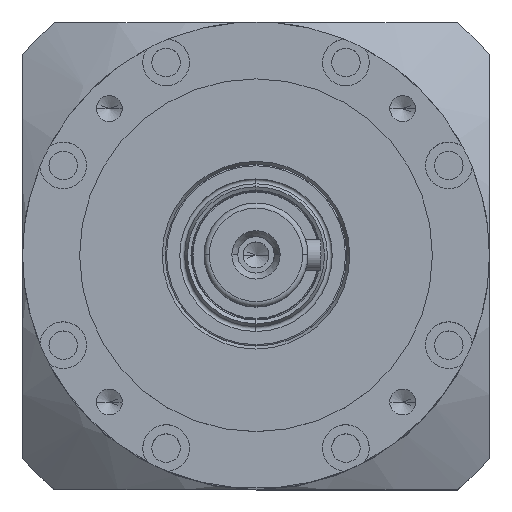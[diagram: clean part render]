
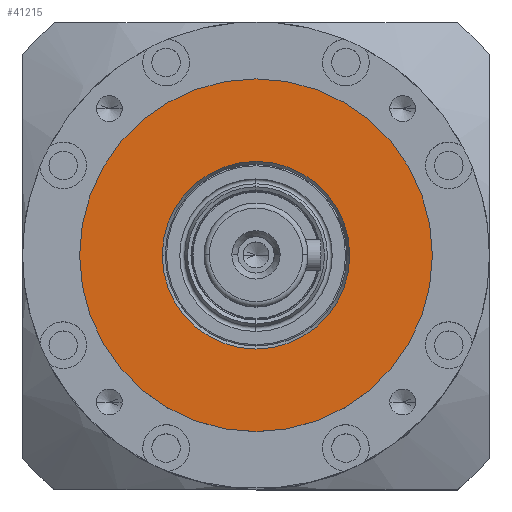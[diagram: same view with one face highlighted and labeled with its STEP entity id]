
A CAD part, top view. The second image highlights one B-rep face of the part: STEP entity #41215.
In plain terms, the highlighted planar face has unit normal (0, 0, 1).
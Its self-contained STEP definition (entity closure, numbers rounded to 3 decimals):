
#2601 = DIRECTION ( 'NONE',  ( 0., 0., 1. ) ) ;
#3233 = EDGE_CURVE ( 'NONE', #23561, #12275, #17015, .T. ) ;
#3869 = DIRECTION ( 'NONE',  ( 0., 0., -1. ) ) ;
#4511 = ORIENTED_EDGE ( 'NONE', *, *, #3233, .F. ) ;
#4671 = DIRECTION ( 'NONE',  ( 0., 0., -1. ) ) ;
#7358 = EDGE_CURVE ( 'NONE', #21536, #33732, #35540, .T. ) ;
#8578 = EDGE_LOOP ( 'NONE', ( #8854, #20335 ) ) ;
#8854 = ORIENTED_EDGE ( 'NONE', *, *, #15967, .F. ) ;
#10026 = ORIENTED_EDGE ( 'NONE', *, *, #31974, .F. ) ;
#10171 = FACE_BOUND ( 'NONE', #26730, .T. ) ;
#11210 = AXIS2_PLACEMENT_3D ( 'NONE', #14436, #38067, #17869 ) ;
#11434 = AXIS2_PLACEMENT_3D ( 'NONE', #22818, #2601, #26220 ) ;
#12275 = VERTEX_POINT ( 'NONE', #23049 ) ;
#14436 = CARTESIAN_POINT ( 'NONE',  ( 0., 0., 0. ) ) ;
#14566 = CIRCLE ( 'NONE', #11434, 18.077 ) ;
#15967 = EDGE_CURVE ( 'NONE', #33732, #21536, #24966, .T. ) ;
#17015 = CIRCLE ( 'NONE', #11210, 18.077 ) ;
#17869 = DIRECTION ( 'NONE',  ( 1., 0., 0. ) ) ;
#17882 = CARTESIAN_POINT ( 'NONE',  ( -34., 0., 0. ) ) ;
#19281 = DIRECTION ( 'NONE',  ( 0., 0., -1. ) ) ;
#20335 = ORIENTED_EDGE ( 'NONE', *, *, #7358, .F. ) ;
#21536 = VERTEX_POINT ( 'NONE', #17882 ) ;
#22818 = CARTESIAN_POINT ( 'NONE',  ( 0., 0., 0. ) ) ;
#23049 = CARTESIAN_POINT ( 'NONE',  ( -18.077, 0., 0. ) ) ;
#23561 = VERTEX_POINT ( 'NONE', #25386 ) ;
#24089 = PLANE ( 'NONE',  #36931 ) ;
#24852 = CARTESIAN_POINT ( 'NONE',  ( 0., 0., 0. ) ) ;
#24966 = CIRCLE ( 'NONE', #40111, 34. ) ;
#25386 = CARTESIAN_POINT ( 'NONE',  ( 18.077, 0., 0. ) ) ;
#26220 = DIRECTION ( 'NONE',  ( 1., 0., 0. ) ) ;
#26730 = EDGE_LOOP ( 'NONE', ( #4511, #10026 ) ) ;
#27465 = DIRECTION ( 'NONE',  ( -1., 0., 0. ) ) ;
#28270 = DIRECTION ( 'NONE',  ( 1., 0., 0. ) ) ;
#31654 = CARTESIAN_POINT ( 'NONE',  ( 34., 0., 0. ) ) ;
#31974 = EDGE_CURVE ( 'NONE', #12275, #23561, #14566, .T. ) ;
#33732 = VERTEX_POINT ( 'NONE', #31654 ) ;
#34113 = CARTESIAN_POINT ( 'NONE',  ( 0., 17.5, 0. ) ) ;
#35540 = CIRCLE ( 'NONE', #35901, 34. ) ;
#35901 = AXIS2_PLACEMENT_3D ( 'NONE', #24852, #4671, #28270 ) ;
#36931 = AXIS2_PLACEMENT_3D ( 'NONE', #34113, #3869, #27465 ) ;
#37135 = FACE_OUTER_BOUND ( 'NONE', #8578, .T. ) ;
#38067 = DIRECTION ( 'NONE',  ( 0., 0., 1. ) ) ;
#39509 = CARTESIAN_POINT ( 'NONE',  ( 0., 0., 0. ) ) ;
#40111 = AXIS2_PLACEMENT_3D ( 'NONE', #39509, #19281, #42915 ) ;
#41215 = ADVANCED_FACE ( 'NONE', ( #10171, #37135 ), #24089, .F. ) ;
#42915 = DIRECTION ( 'NONE',  ( 1., 0., 0. ) ) ;
